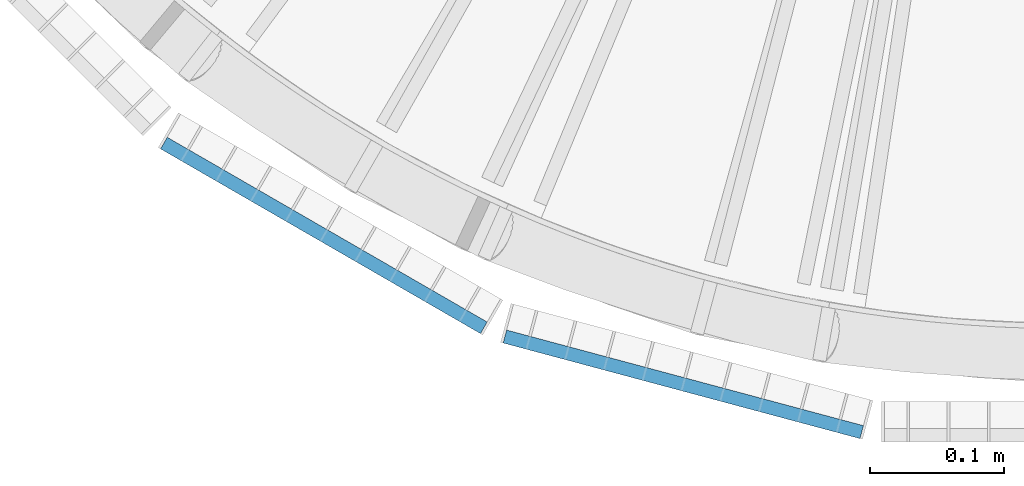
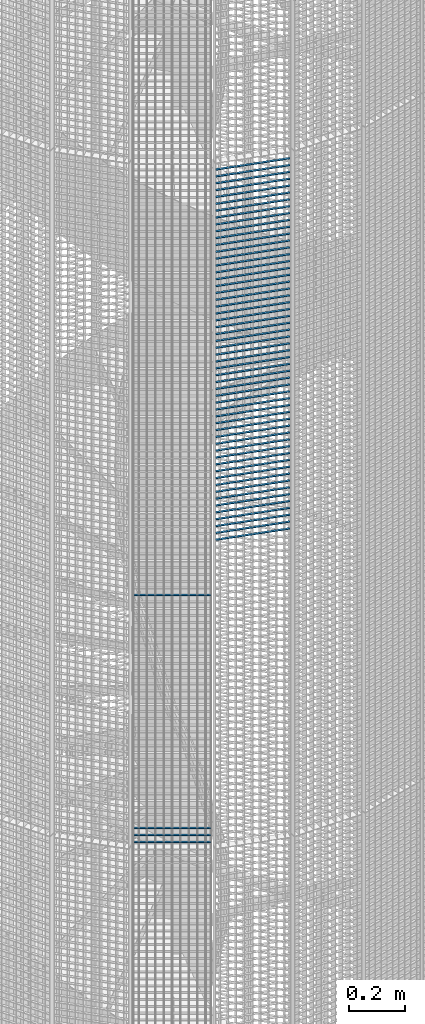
# One storey, part 377 of 1183: 59 beams, 2 elements without a shape of their own.
"""IFC2X3 building model written with IfcOpenShell, lengths in millimetres."""

from ifc_helpers import new_model, si_unit, frame, origin_with_axes, origin_2d_with_axis, place, context, subcontext, project, spatial, rectangle, extrude, material, type_object, element, aggregate, save


model = new_model("IFC2X3")

# Units and contexts
model_context = context("Model", 3, precision=1e-05, world=origin_with_axes())
body_context = subcontext(model_context, "Body", "Model", "MODEL_VIEW")
ifc_project = project(units=[si_unit("LENGTHUNIT", "METRE", prefix="MILLI"), si_unit("AREAUNIT", "SQUARE_METRE"), si_unit("VOLUMEUNIT", "CUBIC_METRE"), si_unit("MASSUNIT", "GRAM", prefix="KILO"), si_unit("TIMEUNIT", "SECOND"), si_unit("PLANEANGLEUNIT", "RADIAN"), si_unit("SOLIDANGLEUNIT", "STERADIAN"), si_unit("THERMODYNAMICTEMPERATUREUNIT", "DEGREE_CELSIUS"), si_unit("LUMINOUSINTENSITYUNIT", "LUMEN")], contexts=[model_context])

# Site, building, storey
site_placement = place(None, origin_with_axes())
site = spatial("IfcSite", under=ifc_project, at=site_placement, Name="Undefined", CompositionType="ELEMENT")
building_placement = place(site_placement, origin_with_axes())
building = spatial("IfcBuilding", under=site, at=building_placement, Name="Undefined", CompositionType="ELEMENT")
storey_placement = place(building_placement, origin_with_axes())
storey = spatial("IfcBuildingStorey", under=building, at=storey_placement, Name="Undefined", CompositionType="ELEMENT", Elevation=0.0)

# Assembly, beams
assembly_1_placement = place(storey_placement, origin_with_axes())
assembly_1 = element("IfcElementAssembly", 1, at=assembly_1_placement, inside=storey, Name="BORDURE", AssemblyPlace="NOTDEFINED", PredefinedType="NOTDEFINED")
ifc_material = material(Name="STEEL/S235JR")
beam_type = type_object("IfcBeamType", Name="PL2*10", PredefinedType="NOTDEFINED")
beam_1_placement = place(assembly_1_placement, frame((21162.7680445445, -1033.29996828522, 3090.0), z_axis=(-0.49999999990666, -0.866025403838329, 0.0), x_axis=(-0.866025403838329, 0.499999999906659, 0.0)))
beam_1 = element("IfcBeam", 2, at=beam_1_placement, type_object=beam_type, material=ifc_material, Name="ENTRETOISE", context=body_context, shape_type="SweptSolid", body=[
    extrude(rectangle(XDim=2.0, YDim=10.0, at=origin_2d_with_axis()), frame((275.999999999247, 9.09494701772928e-13, 1.53210777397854e-14), z_axis=(-1.0, 0.0, 0.0), x_axis=(0.0, -1.0, 0.0)), (0.0, 0.0, 1.0), 276.0),
])
beam_2_placement = place(assembly_1_placement, frame((21162.7680445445, -1033.29996828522, 3060.0), z_axis=(-0.49999999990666, -0.866025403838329, 0.0), x_axis=(-0.866025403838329, 0.499999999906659, 0.0)))
beam_2 = element("IfcBeam", 3, at=beam_2_placement, type_object=beam_type, material=ifc_material, Name="ENTRETOISE", context=body_context, shape_type="SweptSolid", body=[
    extrude(rectangle(XDim=2.0, YDim=10.0, at=origin_2d_with_axis()), frame((275.999999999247, 9.09494701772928e-13, 1.53210777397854e-14), z_axis=(-1.0, 0.0, 0.0), x_axis=(0.0, -1.0, 0.0)), (0.0, 0.0, 1.0), 276.0),
])
beam_3_placement = place(assembly_1_placement, frame((21162.7680445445, -1033.29996828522, 4110.0), z_axis=(-0.49999999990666, -0.866025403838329, 0.0), x_axis=(-0.866025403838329, 0.499999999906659, 0.0)))
beam_3 = element("IfcBeam", 4, at=beam_3_placement, type_object=beam_type, material=ifc_material, Name="ENTRETOISE", context=body_context, shape_type="SweptSolid", body=[
    extrude(rectangle(XDim=2.0, YDim=10.0, at=origin_2d_with_axis()), frame((275.999999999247, 9.09494701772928e-13, 1.53210777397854e-14), z_axis=(-1.0, 0.0, 0.0), x_axis=(0.0, -1.0, 0.0)), (0.0, 0.0, 1.0), 276.0),
])
beam_4_placement = place(assembly_1_placement, frame((21162.7680445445, -1033.29996828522, 3030.0), z_axis=(-0.49999999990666, -0.866025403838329, 0.0), x_axis=(-0.866025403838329, 0.499999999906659, 0.0)))
beam_4 = element("IfcBeam", 5, at=beam_4_placement, type_object=beam_type, material=ifc_material, Name="ENTRETOISE", context=body_context, shape_type="SweptSolid", body=[
    extrude(rectangle(XDim=2.0, YDim=10.0, at=origin_2d_with_axis()), frame((275.999999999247, 9.09494701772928e-13, 1.53210777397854e-14), z_axis=(-1.0, 0.0, 0.0), x_axis=(0.0, -1.0, 0.0)), (0.0, 0.0, 1.0), 276.0),
])
aggregate(assembly_1, [beam_1, beam_2, beam_3, beam_4])

assembly_2_placement = place(storey_placement, origin_with_axes())
assembly_2 = element("IfcElementAssembly", 6, at=assembly_2_placement, inside=storey, Name="BORDURE", AssemblyPlace="NOTDEFINED", PredefinedType="NOTDEFINED")
beam_5_placement = place(assembly_2_placement, frame((21445.1040732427, -1111.25508286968, 5970.0), z_axis=(-0.258819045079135, -0.965925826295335, 0.0), x_axis=(-0.965925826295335, 0.258819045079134, 0.0)))
beam_5 = element("IfcBeam", 7, at=beam_5_placement, type_object=beam_type, material=ifc_material, Name="ENTRETOISE", context=body_context, shape_type="SweptSolid", body=[
    extrude(rectangle(XDim=2.0, YDim=10.0, at=origin_2d_with_axis()), frame((275.999999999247, 9.09494701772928e-13, 1.53210777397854e-14), z_axis=(-1.0, 0.0, 0.0), x_axis=(0.0, -1.0, 0.0)), (0.0, 0.0, 1.0), 276.0),
])
beam_6_placement = place(assembly_2_placement, frame((21445.1040732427, -1111.25508286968, 5940.0), z_axis=(-0.258819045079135, -0.965925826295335, 0.0), x_axis=(-0.965925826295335, 0.258819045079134, 0.0)))
beam_6 = element("IfcBeam", 8, at=beam_6_placement, type_object=beam_type, material=ifc_material, Name="ENTRETOISE", context=body_context, shape_type="SweptSolid", body=[
    extrude(rectangle(XDim=2.0, YDim=10.0, at=origin_2d_with_axis()), frame((275.999999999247, 9.09494701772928e-13, 1.53210777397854e-14), z_axis=(-1.0, 0.0, 0.0), x_axis=(0.0, -1.0, 0.0)), (0.0, 0.0, 1.0), 276.0),
])
beam_7_placement = place(assembly_2_placement, frame((21445.1040732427, -1111.25508286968, 5910.0), z_axis=(-0.258819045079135, -0.965925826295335, 0.0), x_axis=(-0.965925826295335, 0.258819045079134, 0.0)))
beam_7 = element("IfcBeam", 9, at=beam_7_placement, type_object=beam_type, material=ifc_material, Name="ENTRETOISE", context=body_context, shape_type="SweptSolid", body=[
    extrude(rectangle(XDim=2.0, YDim=10.0, at=origin_2d_with_axis()), frame((275.999999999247, 9.09494701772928e-13, 1.53210777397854e-14), z_axis=(-1.0, 0.0, 0.0), x_axis=(0.0, -1.0, 0.0)), (0.0, 0.0, 1.0), 276.0),
])
beam_8_placement = place(assembly_2_placement, frame((21445.1040732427, -1111.25508286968, 5880.0), z_axis=(-0.258819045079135, -0.965925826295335, 0.0), x_axis=(-0.965925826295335, 0.258819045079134, 0.0)))
beam_8 = element("IfcBeam", 10, at=beam_8_placement, type_object=beam_type, material=ifc_material, Name="ENTRETOISE", context=body_context, shape_type="SweptSolid", body=[
    extrude(rectangle(XDim=2.0, YDim=10.0, at=origin_2d_with_axis()), frame((275.999999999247, 9.09494701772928e-13, 1.53210777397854e-14), z_axis=(-1.0, 0.0, 0.0), x_axis=(0.0, -1.0, 0.0)), (0.0, 0.0, 1.0), 276.0),
])
beam_9_placement = place(assembly_2_placement, frame((21445.1040732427, -1111.25508286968, 5850.0), z_axis=(-0.258819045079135, -0.965925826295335, 0.0), x_axis=(-0.965925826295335, 0.258819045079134, 0.0)))
beam_9 = element("IfcBeam", 11, at=beam_9_placement, type_object=beam_type, material=ifc_material, Name="ENTRETOISE", context=body_context, shape_type="SweptSolid", body=[
    extrude(rectangle(XDim=2.0, YDim=10.0, at=origin_2d_with_axis()), frame((275.999999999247, 9.09494701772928e-13, 1.53210777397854e-14), z_axis=(-1.0, 0.0, 0.0), x_axis=(0.0, -1.0, 0.0)), (0.0, 0.0, 1.0), 276.0),
])
beam_10_placement = place(assembly_2_placement, frame((21445.1040732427, -1111.25508286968, 5820.0), z_axis=(-0.258819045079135, -0.965925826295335, 0.0), x_axis=(-0.965925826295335, 0.258819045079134, 0.0)))
beam_10 = element("IfcBeam", 12, at=beam_10_placement, type_object=beam_type, material=ifc_material, Name="ENTRETOISE", context=body_context, shape_type="SweptSolid", body=[
    extrude(rectangle(XDim=2.0, YDim=10.0, at=origin_2d_with_axis()), frame((275.999999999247, 9.09494701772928e-13, 1.53210777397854e-14), z_axis=(-1.0, 0.0, 0.0), x_axis=(0.0, -1.0, 0.0)), (0.0, 0.0, 1.0), 276.0),
])
beam_11_placement = place(assembly_2_placement, frame((21445.1040732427, -1111.25508286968, 5790.0), z_axis=(-0.258819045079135, -0.965925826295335, 0.0), x_axis=(-0.965925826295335, 0.258819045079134, 0.0)))
beam_11 = element("IfcBeam", 13, at=beam_11_placement, type_object=beam_type, material=ifc_material, Name="ENTRETOISE", context=body_context, shape_type="SweptSolid", body=[
    extrude(rectangle(XDim=2.0, YDim=10.0, at=origin_2d_with_axis()), frame((275.999999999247, 9.09494701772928e-13, 1.53210777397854e-14), z_axis=(-1.0, 0.0, 0.0), x_axis=(0.0, -1.0, 0.0)), (0.0, 0.0, 1.0), 276.0),
])
beam_12_placement = place(assembly_2_placement, frame((21445.1040732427, -1111.25508286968, 5760.0), z_axis=(-0.258819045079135, -0.965925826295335, 0.0), x_axis=(-0.965925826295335, 0.258819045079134, 0.0)))
beam_12 = element("IfcBeam", 14, at=beam_12_placement, type_object=beam_type, material=ifc_material, Name="ENTRETOISE", context=body_context, shape_type="SweptSolid", body=[
    extrude(rectangle(XDim=2.0, YDim=10.0, at=origin_2d_with_axis()), frame((275.999999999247, 9.09494701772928e-13, 1.53210777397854e-14), z_axis=(-1.0, 0.0, 0.0), x_axis=(0.0, -1.0, 0.0)), (0.0, 0.0, 1.0), 276.0),
])
beam_13_placement = place(assembly_2_placement, frame((21445.1040732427, -1111.25508286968, 5730.0), z_axis=(-0.258819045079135, -0.965925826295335, 0.0), x_axis=(-0.965925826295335, 0.258819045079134, 0.0)))
beam_13 = element("IfcBeam", 15, at=beam_13_placement, type_object=beam_type, material=ifc_material, Name="ENTRETOISE", context=body_context, shape_type="SweptSolid", body=[
    extrude(rectangle(XDim=2.0, YDim=10.0, at=origin_2d_with_axis()), frame((275.999999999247, 9.09494701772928e-13, 1.53210777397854e-14), z_axis=(-1.0, 0.0, 0.0), x_axis=(0.0, -1.0, 0.0)), (0.0, 0.0, 1.0), 276.0),
])
beam_14_placement = place(assembly_2_placement, frame((21445.1040732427, -1111.25508286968, 5700.0), z_axis=(-0.258819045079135, -0.965925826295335, 0.0), x_axis=(-0.965925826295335, 0.258819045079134, 0.0)))
beam_14 = element("IfcBeam", 16, at=beam_14_placement, type_object=beam_type, material=ifc_material, Name="ENTRETOISE", context=body_context, shape_type="SweptSolid", body=[
    extrude(rectangle(XDim=2.0, YDim=10.0, at=origin_2d_with_axis()), frame((275.999999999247, 9.09494701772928e-13, 1.53210777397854e-14), z_axis=(-1.0, 0.0, 0.0), x_axis=(0.0, -1.0, 0.0)), (0.0, 0.0, 1.0), 276.0),
])
beam_15_placement = place(assembly_2_placement, frame((21445.1040732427, -1111.25508286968, 5670.0), z_axis=(-0.258819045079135, -0.965925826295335, 0.0), x_axis=(-0.965925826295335, 0.258819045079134, 0.0)))
beam_15 = element("IfcBeam", 17, at=beam_15_placement, type_object=beam_type, material=ifc_material, Name="ENTRETOISE", context=body_context, shape_type="SweptSolid", body=[
    extrude(rectangle(XDim=2.0, YDim=10.0, at=origin_2d_with_axis()), frame((275.999999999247, 9.09494701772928e-13, 1.53210777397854e-14), z_axis=(-1.0, 0.0, 0.0), x_axis=(0.0, -1.0, 0.0)), (0.0, 0.0, 1.0), 276.0),
])
beam_16_placement = place(assembly_2_placement, frame((21445.1040732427, -1111.25508286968, 5640.0), z_axis=(-0.258819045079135, -0.965925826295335, 0.0), x_axis=(-0.965925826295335, 0.258819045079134, 0.0)))
beam_16 = element("IfcBeam", 18, at=beam_16_placement, type_object=beam_type, material=ifc_material, Name="ENTRETOISE", context=body_context, shape_type="SweptSolid", body=[
    extrude(rectangle(XDim=2.0, YDim=10.0, at=origin_2d_with_axis()), frame((275.999999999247, 9.09494701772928e-13, 1.53210777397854e-14), z_axis=(-1.0, 0.0, 0.0), x_axis=(0.0, -1.0, 0.0)), (0.0, 0.0, 1.0), 276.0),
])
beam_17_placement = place(assembly_2_placement, frame((21445.1040732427, -1111.25508286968, 5610.0), z_axis=(-0.258819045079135, -0.965925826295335, 0.0), x_axis=(-0.965925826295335, 0.258819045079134, 0.0)))
beam_17 = element("IfcBeam", 19, at=beam_17_placement, type_object=beam_type, material=ifc_material, Name="ENTRETOISE", context=body_context, shape_type="SweptSolid", body=[
    extrude(rectangle(XDim=2.0, YDim=10.0, at=origin_2d_with_axis()), frame((275.999999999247, 9.09494701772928e-13, 1.53210777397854e-14), z_axis=(-1.0, 0.0, 0.0), x_axis=(0.0, -1.0, 0.0)), (0.0, 0.0, 1.0), 276.0),
])
beam_18_placement = place(assembly_2_placement, frame((21445.1040732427, -1111.25508286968, 5580.0), z_axis=(-0.258819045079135, -0.965925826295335, 0.0), x_axis=(-0.965925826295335, 0.258819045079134, 0.0)))
beam_18 = element("IfcBeam", 20, at=beam_18_placement, type_object=beam_type, material=ifc_material, Name="ENTRETOISE", context=body_context, shape_type="SweptSolid", body=[
    extrude(rectangle(XDim=2.0, YDim=10.0, at=origin_2d_with_axis()), frame((275.999999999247, 9.09494701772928e-13, 1.53210777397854e-14), z_axis=(-1.0, 0.0, 0.0), x_axis=(0.0, -1.0, 0.0)), (0.0, 0.0, 1.0), 276.0),
])
beam_19_placement = place(assembly_2_placement, frame((21445.1040732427, -1111.25508286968, 5550.0), z_axis=(-0.258819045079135, -0.965925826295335, 0.0), x_axis=(-0.965925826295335, 0.258819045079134, 0.0)))
beam_19 = element("IfcBeam", 21, at=beam_19_placement, type_object=beam_type, material=ifc_material, Name="ENTRETOISE", context=body_context, shape_type="SweptSolid", body=[
    extrude(rectangle(XDim=2.0, YDim=10.0, at=origin_2d_with_axis()), frame((275.999999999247, 9.09494701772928e-13, 1.53210777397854e-14), z_axis=(-1.0, 0.0, 0.0), x_axis=(0.0, -1.0, 0.0)), (0.0, 0.0, 1.0), 276.0),
])
beam_20_placement = place(assembly_2_placement, frame((21445.1040732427, -1111.25508286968, 5520.0), z_axis=(-0.258819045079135, -0.965925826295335, 0.0), x_axis=(-0.965925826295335, 0.258819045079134, 0.0)))
beam_20 = element("IfcBeam", 22, at=beam_20_placement, type_object=beam_type, material=ifc_material, Name="ENTRETOISE", context=body_context, shape_type="SweptSolid", body=[
    extrude(rectangle(XDim=2.0, YDim=10.0, at=origin_2d_with_axis()), frame((275.999999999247, 9.09494701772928e-13, 1.53210777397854e-14), z_axis=(-1.0, 0.0, 0.0), x_axis=(0.0, -1.0, 0.0)), (0.0, 0.0, 1.0), 276.0),
])
beam_21_placement = place(assembly_2_placement, frame((21445.1040732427, -1111.25508286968, 5490.0), z_axis=(-0.258819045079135, -0.965925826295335, 0.0), x_axis=(-0.965925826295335, 0.258819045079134, 0.0)))
beam_21 = element("IfcBeam", 23, at=beam_21_placement, type_object=beam_type, material=ifc_material, Name="ENTRETOISE", context=body_context, shape_type="SweptSolid", body=[
    extrude(rectangle(XDim=2.0, YDim=10.0, at=origin_2d_with_axis()), frame((275.999999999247, 9.09494701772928e-13, 1.53210777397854e-14), z_axis=(-1.0, 0.0, 0.0), x_axis=(0.0, -1.0, 0.0)), (0.0, 0.0, 1.0), 276.0),
])
beam_22_placement = place(assembly_2_placement, frame((21445.1040732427, -1111.25508286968, 5460.0), z_axis=(-0.258819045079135, -0.965925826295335, 0.0), x_axis=(-0.965925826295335, 0.258819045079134, 0.0)))
beam_22 = element("IfcBeam", 24, at=beam_22_placement, type_object=beam_type, material=ifc_material, Name="ENTRETOISE", context=body_context, shape_type="SweptSolid", body=[
    extrude(rectangle(XDim=2.0, YDim=10.0, at=origin_2d_with_axis()), frame((275.999999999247, 9.09494701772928e-13, 1.53210777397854e-14), z_axis=(-1.0, 0.0, 0.0), x_axis=(0.0, -1.0, 0.0)), (0.0, 0.0, 1.0), 276.0),
])
beam_23_placement = place(assembly_2_placement, frame((21445.1040732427, -1111.25508286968, 5430.0), z_axis=(-0.258819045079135, -0.965925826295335, 0.0), x_axis=(-0.965925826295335, 0.258819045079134, 0.0)))
beam_23 = element("IfcBeam", 25, at=beam_23_placement, type_object=beam_type, material=ifc_material, Name="ENTRETOISE", context=body_context, shape_type="SweptSolid", body=[
    extrude(rectangle(XDim=2.0, YDim=10.0, at=origin_2d_with_axis()), frame((275.999999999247, 9.09494701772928e-13, 1.53210777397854e-14), z_axis=(-1.0, 0.0, 0.0), x_axis=(0.0, -1.0, 0.0)), (0.0, 0.0, 1.0), 276.0),
])
beam_24_placement = place(assembly_2_placement, frame((21445.1040732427, -1111.25508286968, 5400.0), z_axis=(-0.258819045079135, -0.965925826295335, 0.0), x_axis=(-0.965925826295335, 0.258819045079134, 0.0)))
beam_24 = element("IfcBeam", 26, at=beam_24_placement, type_object=beam_type, material=ifc_material, Name="ENTRETOISE", context=body_context, shape_type="SweptSolid", body=[
    extrude(rectangle(XDim=2.0, YDim=10.0, at=origin_2d_with_axis()), frame((275.999999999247, 9.09494701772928e-13, 1.53210777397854e-14), z_axis=(-1.0, 0.0, 0.0), x_axis=(0.0, -1.0, 0.0)), (0.0, 0.0, 1.0), 276.0),
])
beam_25_placement = place(assembly_2_placement, frame((21445.1040732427, -1111.25508286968, 5370.0), z_axis=(-0.258819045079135, -0.965925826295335, 0.0), x_axis=(-0.965925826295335, 0.258819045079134, 0.0)))
beam_25 = element("IfcBeam", 27, at=beam_25_placement, type_object=beam_type, material=ifc_material, Name="ENTRETOISE", context=body_context, shape_type="SweptSolid", body=[
    extrude(rectangle(XDim=2.0, YDim=10.0, at=origin_2d_with_axis()), frame((275.999999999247, 9.09494701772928e-13, 1.53210777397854e-14), z_axis=(-1.0, 0.0, 0.0), x_axis=(0.0, -1.0, 0.0)), (0.0, 0.0, 1.0), 276.0),
])
beam_26_placement = place(assembly_2_placement, frame((21445.1040732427, -1111.25508286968, 5340.0), z_axis=(-0.258819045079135, -0.965925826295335, 0.0), x_axis=(-0.965925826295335, 0.258819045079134, 0.0)))
beam_26 = element("IfcBeam", 28, at=beam_26_placement, type_object=beam_type, material=ifc_material, Name="ENTRETOISE", context=body_context, shape_type="SweptSolid", body=[
    extrude(rectangle(XDim=2.0, YDim=10.0, at=origin_2d_with_axis()), frame((275.999999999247, 9.09494701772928e-13, 1.53210777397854e-14), z_axis=(-1.0, 0.0, 0.0), x_axis=(0.0, -1.0, 0.0)), (0.0, 0.0, 1.0), 276.0),
])
beam_27_placement = place(assembly_2_placement, frame((21445.1040732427, -1111.25508286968, 5310.0), z_axis=(-0.258819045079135, -0.965925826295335, 0.0), x_axis=(-0.965925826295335, 0.258819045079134, 0.0)))
beam_27 = element("IfcBeam", 29, at=beam_27_placement, type_object=beam_type, material=ifc_material, Name="ENTRETOISE", context=body_context, shape_type="SweptSolid", body=[
    extrude(rectangle(XDim=2.0, YDim=10.0, at=origin_2d_with_axis()), frame((275.999999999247, 9.09494701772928e-13, 1.53210777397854e-14), z_axis=(-1.0, 0.0, 0.0), x_axis=(0.0, -1.0, 0.0)), (0.0, 0.0, 1.0), 276.0),
])
beam_28_placement = place(assembly_2_placement, frame((21445.1040732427, -1111.25508286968, 5280.0), z_axis=(-0.258819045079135, -0.965925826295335, 0.0), x_axis=(-0.965925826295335, 0.258819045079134, 0.0)))
beam_28 = element("IfcBeam", 30, at=beam_28_placement, type_object=beam_type, material=ifc_material, Name="ENTRETOISE", context=body_context, shape_type="SweptSolid", body=[
    extrude(rectangle(XDim=2.0, YDim=10.0, at=origin_2d_with_axis()), frame((275.999999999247, 9.09494701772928e-13, 1.53210777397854e-14), z_axis=(-1.0, 0.0, 0.0), x_axis=(0.0, -1.0, 0.0)), (0.0, 0.0, 1.0), 276.0),
])
beam_29_placement = place(assembly_2_placement, frame((21445.1040732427, -1111.25508286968, 5250.0), z_axis=(-0.258819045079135, -0.965925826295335, 0.0), x_axis=(-0.965925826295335, 0.258819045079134, 0.0)))
beam_29 = element("IfcBeam", 31, at=beam_29_placement, type_object=beam_type, material=ifc_material, Name="ENTRETOISE", context=body_context, shape_type="SweptSolid", body=[
    extrude(rectangle(XDim=2.0, YDim=10.0, at=origin_2d_with_axis()), frame((275.999999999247, 9.09494701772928e-13, 1.53210777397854e-14), z_axis=(-1.0, 0.0, 0.0), x_axis=(0.0, -1.0, 0.0)), (0.0, 0.0, 1.0), 276.0),
])
beam_30_placement = place(assembly_2_placement, frame((21445.1040732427, -1111.25508286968, 5220.0), z_axis=(-0.258819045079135, -0.965925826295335, 0.0), x_axis=(-0.965925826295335, 0.258819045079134, 0.0)))
beam_30 = element("IfcBeam", 32, at=beam_30_placement, type_object=beam_type, material=ifc_material, Name="ENTRETOISE", context=body_context, shape_type="SweptSolid", body=[
    extrude(rectangle(XDim=2.0, YDim=10.0, at=origin_2d_with_axis()), frame((275.999999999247, 9.09494701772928e-13, 1.53210777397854e-14), z_axis=(-1.0, 0.0, 0.0), x_axis=(0.0, -1.0, 0.0)), (0.0, 0.0, 1.0), 276.0),
])
beam_31_placement = place(assembly_2_placement, frame((21445.1040732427, -1111.25508286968, 5190.0), z_axis=(-0.258819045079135, -0.965925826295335, 0.0), x_axis=(-0.965925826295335, 0.258819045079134, 0.0)))
beam_31 = element("IfcBeam", 33, at=beam_31_placement, type_object=beam_type, material=ifc_material, Name="ENTRETOISE", context=body_context, shape_type="SweptSolid", body=[
    extrude(rectangle(XDim=2.0, YDim=10.0, at=origin_2d_with_axis()), frame((275.999999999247, 9.09494701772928e-13, 1.53210777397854e-14), z_axis=(-1.0, 0.0, 0.0), x_axis=(0.0, -1.0, 0.0)), (0.0, 0.0, 1.0), 276.0),
])
beam_32_placement = place(assembly_2_placement, frame((21445.1040732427, -1111.25508286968, 5160.0), z_axis=(-0.258819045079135, -0.965925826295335, 0.0), x_axis=(-0.965925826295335, 0.258819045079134, 0.0)))
beam_32 = element("IfcBeam", 34, at=beam_32_placement, type_object=beam_type, material=ifc_material, Name="ENTRETOISE", context=body_context, shape_type="SweptSolid", body=[
    extrude(rectangle(XDim=2.0, YDim=10.0, at=origin_2d_with_axis()), frame((275.999999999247, 9.09494701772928e-13, 1.53210777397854e-14), z_axis=(-1.0, 0.0, 0.0), x_axis=(0.0, -1.0, 0.0)), (0.0, 0.0, 1.0), 276.0),
])
beam_33_placement = place(assembly_2_placement, frame((21445.1040732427, -1111.25508286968, 5130.0), z_axis=(-0.258819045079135, -0.965925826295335, 0.0), x_axis=(-0.965925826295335, 0.258819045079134, 0.0)))
beam_33 = element("IfcBeam", 35, at=beam_33_placement, type_object=beam_type, material=ifc_material, Name="ENTRETOISE", context=body_context, shape_type="SweptSolid", body=[
    extrude(rectangle(XDim=2.0, YDim=10.0, at=origin_2d_with_axis()), frame((275.999999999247, 9.09494701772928e-13, 1.53210777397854e-14), z_axis=(-1.0, 0.0, 0.0), x_axis=(0.0, -1.0, 0.0)), (0.0, 0.0, 1.0), 276.0),
])
beam_34_placement = place(assembly_2_placement, frame((21445.1040732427, -1111.25508286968, 5100.0), z_axis=(-0.258819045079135, -0.965925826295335, 0.0), x_axis=(-0.965925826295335, 0.258819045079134, 0.0)))
beam_34 = element("IfcBeam", 36, at=beam_34_placement, type_object=beam_type, material=ifc_material, Name="ENTRETOISE", context=body_context, shape_type="SweptSolid", body=[
    extrude(rectangle(XDim=2.0, YDim=10.0, at=origin_2d_with_axis()), frame((275.999999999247, 9.09494701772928e-13, 1.53210777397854e-14), z_axis=(-1.0, 0.0, 0.0), x_axis=(0.0, -1.0, 0.0)), (0.0, 0.0, 1.0), 276.0),
])
beam_35_placement = place(assembly_2_placement, frame((21445.1040732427, -1111.25508286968, 5070.0), z_axis=(-0.258819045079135, -0.965925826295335, 0.0), x_axis=(-0.965925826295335, 0.258819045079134, 0.0)))
beam_35 = element("IfcBeam", 37, at=beam_35_placement, type_object=beam_type, material=ifc_material, Name="ENTRETOISE", context=body_context, shape_type="SweptSolid", body=[
    extrude(rectangle(XDim=2.0, YDim=10.0, at=origin_2d_with_axis()), frame((275.999999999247, 9.09494701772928e-13, 1.53210777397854e-14), z_axis=(-1.0, 0.0, 0.0), x_axis=(0.0, -1.0, 0.0)), (0.0, 0.0, 1.0), 276.0),
])
beam_36_placement = place(assembly_2_placement, frame((21445.1040732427, -1111.25508286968, 5040.0), z_axis=(-0.258819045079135, -0.965925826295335, 0.0), x_axis=(-0.965925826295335, 0.258819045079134, 0.0)))
beam_36 = element("IfcBeam", 38, at=beam_36_placement, type_object=beam_type, material=ifc_material, Name="ENTRETOISE", context=body_context, shape_type="SweptSolid", body=[
    extrude(rectangle(XDim=2.0, YDim=10.0, at=origin_2d_with_axis()), frame((275.999999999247, 9.09494701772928e-13, 1.53210777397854e-14), z_axis=(-1.0, 0.0, 0.0), x_axis=(0.0, -1.0, 0.0)), (0.0, 0.0, 1.0), 276.0),
])
beam_37_placement = place(assembly_2_placement, frame((21445.1040732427, -1111.25508286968, 5010.0), z_axis=(-0.258819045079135, -0.965925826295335, 0.0), x_axis=(-0.965925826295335, 0.258819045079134, 0.0)))
beam_37 = element("IfcBeam", 39, at=beam_37_placement, type_object=beam_type, material=ifc_material, Name="ENTRETOISE", context=body_context, shape_type="SweptSolid", body=[
    extrude(rectangle(XDim=2.0, YDim=10.0, at=origin_2d_with_axis()), frame((275.999999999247, 9.09494701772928e-13, 1.53210777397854e-14), z_axis=(-1.0, 0.0, 0.0), x_axis=(0.0, -1.0, 0.0)), (0.0, 0.0, 1.0), 276.0),
])
beam_38_placement = place(assembly_2_placement, frame((21445.1040732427, -1111.25508286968, 4980.0), z_axis=(-0.258819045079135, -0.965925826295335, 0.0), x_axis=(-0.965925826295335, 0.258819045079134, 0.0)))
beam_38 = element("IfcBeam", 40, at=beam_38_placement, type_object=beam_type, material=ifc_material, Name="ENTRETOISE", context=body_context, shape_type="SweptSolid", body=[
    extrude(rectangle(XDim=2.0, YDim=10.0, at=origin_2d_with_axis()), frame((275.999999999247, 9.09494701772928e-13, 1.53210777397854e-14), z_axis=(-1.0, 0.0, 0.0), x_axis=(0.0, -1.0, 0.0)), (0.0, 0.0, 1.0), 276.0),
])
beam_39_placement = place(assembly_2_placement, frame((21445.1040732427, -1111.25508286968, 4950.0), z_axis=(-0.258819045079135, -0.965925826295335, 0.0), x_axis=(-0.965925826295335, 0.258819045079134, 0.0)))
beam_39 = element("IfcBeam", 41, at=beam_39_placement, type_object=beam_type, material=ifc_material, Name="ENTRETOISE", context=body_context, shape_type="SweptSolid", body=[
    extrude(rectangle(XDim=2.0, YDim=10.0, at=origin_2d_with_axis()), frame((275.999999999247, 9.09494701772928e-13, 1.53210777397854e-14), z_axis=(-1.0, 0.0, 0.0), x_axis=(0.0, -1.0, 0.0)), (0.0, 0.0, 1.0), 276.0),
])
beam_40_placement = place(assembly_2_placement, frame((21445.1040732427, -1111.25508286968, 4920.0), z_axis=(-0.258819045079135, -0.965925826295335, 0.0), x_axis=(-0.965925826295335, 0.258819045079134, 0.0)))
beam_40 = element("IfcBeam", 42, at=beam_40_placement, type_object=beam_type, material=ifc_material, Name="ENTRETOISE", context=body_context, shape_type="SweptSolid", body=[
    extrude(rectangle(XDim=2.0, YDim=10.0, at=origin_2d_with_axis()), frame((275.999999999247, 9.09494701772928e-13, 1.53210777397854e-14), z_axis=(-1.0, 0.0, 0.0), x_axis=(0.0, -1.0, 0.0)), (0.0, 0.0, 1.0), 276.0),
])
beam_41_placement = place(assembly_2_placement, frame((21445.1040732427, -1111.25508286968, 4890.0), z_axis=(-0.258819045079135, -0.965925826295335, 0.0), x_axis=(-0.965925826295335, 0.258819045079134, 0.0)))
beam_41 = element("IfcBeam", 43, at=beam_41_placement, type_object=beam_type, material=ifc_material, Name="ENTRETOISE", context=body_context, shape_type="SweptSolid", body=[
    extrude(rectangle(XDim=2.0, YDim=10.0, at=origin_2d_with_axis()), frame((275.999999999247, 9.09494701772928e-13, 1.53210777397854e-14), z_axis=(-1.0, 0.0, 0.0), x_axis=(0.0, -1.0, 0.0)), (0.0, 0.0, 1.0), 276.0),
])
beam_42_placement = place(assembly_2_placement, frame((21445.1040732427, -1111.25508286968, 4860.0), z_axis=(-0.258819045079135, -0.965925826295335, 0.0), x_axis=(-0.965925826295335, 0.258819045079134, 0.0)))
beam_42 = element("IfcBeam", 44, at=beam_42_placement, type_object=beam_type, material=ifc_material, Name="ENTRETOISE", context=body_context, shape_type="SweptSolid", body=[
    extrude(rectangle(XDim=2.0, YDim=10.0, at=origin_2d_with_axis()), frame((275.999999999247, 9.09494701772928e-13, 1.53210777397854e-14), z_axis=(-1.0, 0.0, 0.0), x_axis=(0.0, -1.0, 0.0)), (0.0, 0.0, 1.0), 276.0),
])
beam_43_placement = place(assembly_2_placement, frame((21445.1040732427, -1111.25508286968, 4830.0), z_axis=(-0.258819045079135, -0.965925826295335, 0.0), x_axis=(-0.965925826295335, 0.258819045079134, 0.0)))
beam_43 = element("IfcBeam", 45, at=beam_43_placement, type_object=beam_type, material=ifc_material, Name="ENTRETOISE", context=body_context, shape_type="SweptSolid", body=[
    extrude(rectangle(XDim=2.0, YDim=10.0, at=origin_2d_with_axis()), frame((275.999999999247, 9.09494701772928e-13, 1.53210777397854e-14), z_axis=(-1.0, 0.0, 0.0), x_axis=(0.0, -1.0, 0.0)), (0.0, 0.0, 1.0), 276.0),
])
beam_44_placement = place(assembly_2_placement, frame((21445.1040732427, -1111.25508286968, 4800.0), z_axis=(-0.258819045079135, -0.965925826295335, 0.0), x_axis=(-0.965925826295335, 0.258819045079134, 0.0)))
beam_44 = element("IfcBeam", 46, at=beam_44_placement, type_object=beam_type, material=ifc_material, Name="ENTRETOISE", context=body_context, shape_type="SweptSolid", body=[
    extrude(rectangle(XDim=2.0, YDim=10.0, at=origin_2d_with_axis()), frame((275.999999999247, 9.09494701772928e-13, 1.53210777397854e-14), z_axis=(-1.0, 0.0, 0.0), x_axis=(0.0, -1.0, 0.0)), (0.0, 0.0, 1.0), 276.0),
])
beam_45_placement = place(assembly_2_placement, frame((21445.1040732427, -1111.25508286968, 4770.0), z_axis=(-0.258819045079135, -0.965925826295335, 0.0), x_axis=(-0.965925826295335, 0.258819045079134, 0.0)))
beam_45 = element("IfcBeam", 47, at=beam_45_placement, type_object=beam_type, material=ifc_material, Name="ENTRETOISE", context=body_context, shape_type="SweptSolid", body=[
    extrude(rectangle(XDim=2.0, YDim=10.0, at=origin_2d_with_axis()), frame((275.999999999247, 9.09494701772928e-13, 1.53210777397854e-14), z_axis=(-1.0, 0.0, 0.0), x_axis=(0.0, -1.0, 0.0)), (0.0, 0.0, 1.0), 276.0),
])
beam_46_placement = place(assembly_2_placement, frame((21445.1040732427, -1111.25508286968, 4740.0), z_axis=(-0.258819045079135, -0.965925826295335, 0.0), x_axis=(-0.965925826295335, 0.258819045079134, 0.0)))
beam_46 = element("IfcBeam", 48, at=beam_46_placement, type_object=beam_type, material=ifc_material, Name="ENTRETOISE", context=body_context, shape_type="SweptSolid", body=[
    extrude(rectangle(XDim=2.0, YDim=10.0, at=origin_2d_with_axis()), frame((275.999999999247, 9.09494701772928e-13, 1.53210777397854e-14), z_axis=(-1.0, 0.0, 0.0), x_axis=(0.0, -1.0, 0.0)), (0.0, 0.0, 1.0), 276.0),
])
beam_47_placement = place(assembly_2_placement, frame((21445.1040732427, -1111.25508286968, 4710.0), z_axis=(-0.258819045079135, -0.965925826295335, 0.0), x_axis=(-0.965925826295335, 0.258819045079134, 0.0)))
beam_47 = element("IfcBeam", 49, at=beam_47_placement, type_object=beam_type, material=ifc_material, Name="ENTRETOISE", context=body_context, shape_type="SweptSolid", body=[
    extrude(rectangle(XDim=2.0, YDim=10.0, at=origin_2d_with_axis()), frame((275.999999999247, 9.09494701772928e-13, 1.53210777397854e-14), z_axis=(-1.0, 0.0, 0.0), x_axis=(0.0, -1.0, 0.0)), (0.0, 0.0, 1.0), 276.0),
])
beam_48_placement = place(assembly_2_placement, frame((21445.1040732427, -1111.25508286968, 4680.0), z_axis=(-0.258819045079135, -0.965925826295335, 0.0), x_axis=(-0.965925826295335, 0.258819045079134, 0.0)))
beam_48 = element("IfcBeam", 50, at=beam_48_placement, type_object=beam_type, material=ifc_material, Name="ENTRETOISE", context=body_context, shape_type="SweptSolid", body=[
    extrude(rectangle(XDim=2.0, YDim=10.0, at=origin_2d_with_axis()), frame((275.999999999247, 9.09494701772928e-13, 1.53210777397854e-14), z_axis=(-1.0, 0.0, 0.0), x_axis=(0.0, -1.0, 0.0)), (0.0, 0.0, 1.0), 276.0),
])
beam_49_placement = place(assembly_2_placement, frame((21445.1040732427, -1111.25508286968, 4650.0), z_axis=(-0.258819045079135, -0.965925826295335, 0.0), x_axis=(-0.965925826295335, 0.258819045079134, 0.0)))
beam_49 = element("IfcBeam", 51, at=beam_49_placement, type_object=beam_type, material=ifc_material, Name="ENTRETOISE", context=body_context, shape_type="SweptSolid", body=[
    extrude(rectangle(XDim=2.0, YDim=10.0, at=origin_2d_with_axis()), frame((275.999999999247, 9.09494701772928e-13, 1.53210777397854e-14), z_axis=(-1.0, 0.0, 0.0), x_axis=(0.0, -1.0, 0.0)), (0.0, 0.0, 1.0), 276.0),
])
beam_50_placement = place(assembly_2_placement, frame((21445.1040732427, -1111.25508286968, 4620.0), z_axis=(-0.258819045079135, -0.965925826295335, 0.0), x_axis=(-0.965925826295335, 0.258819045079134, 0.0)))
beam_50 = element("IfcBeam", 52, at=beam_50_placement, type_object=beam_type, material=ifc_material, Name="ENTRETOISE", context=body_context, shape_type="SweptSolid", body=[
    extrude(rectangle(XDim=2.0, YDim=10.0, at=origin_2d_with_axis()), frame((275.999999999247, 9.09494701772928e-13, 1.53210777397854e-14), z_axis=(-1.0, 0.0, 0.0), x_axis=(0.0, -1.0, 0.0)), (0.0, 0.0, 1.0), 276.0),
])
beam_51_placement = place(assembly_2_placement, frame((21445.1040732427, -1111.25508286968, 4590.0), z_axis=(-0.258819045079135, -0.965925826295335, 0.0), x_axis=(-0.965925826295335, 0.258819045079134, 0.0)))
beam_51 = element("IfcBeam", 53, at=beam_51_placement, type_object=beam_type, material=ifc_material, Name="ENTRETOISE", context=body_context, shape_type="SweptSolid", body=[
    extrude(rectangle(XDim=2.0, YDim=10.0, at=origin_2d_with_axis()), frame((275.999999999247, 9.09494701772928e-13, 1.53210777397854e-14), z_axis=(-1.0, 0.0, 0.0), x_axis=(0.0, -1.0, 0.0)), (0.0, 0.0, 1.0), 276.0),
])
beam_52_placement = place(assembly_2_placement, frame((21445.1040732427, -1111.25508286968, 4560.0), z_axis=(-0.258819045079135, -0.965925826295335, 0.0), x_axis=(-0.965925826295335, 0.258819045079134, 0.0)))
beam_52 = element("IfcBeam", 54, at=beam_52_placement, type_object=beam_type, material=ifc_material, Name="ENTRETOISE", context=body_context, shape_type="SweptSolid", body=[
    extrude(rectangle(XDim=2.0, YDim=10.0, at=origin_2d_with_axis()), frame((275.999999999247, 9.09494701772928e-13, 1.53210777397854e-14), z_axis=(-1.0, 0.0, 0.0), x_axis=(0.0, -1.0, 0.0)), (0.0, 0.0, 1.0), 276.0),
])
beam_53_placement = place(assembly_2_placement, frame((21445.1040732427, -1111.25508286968, 4530.0), z_axis=(-0.258819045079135, -0.965925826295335, 0.0), x_axis=(-0.965925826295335, 0.258819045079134, 0.0)))
beam_53 = element("IfcBeam", 55, at=beam_53_placement, type_object=beam_type, material=ifc_material, Name="ENTRETOISE", context=body_context, shape_type="SweptSolid", body=[
    extrude(rectangle(XDim=2.0, YDim=10.0, at=origin_2d_with_axis()), frame((275.999999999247, 9.09494701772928e-13, 1.53210777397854e-14), z_axis=(-1.0, 0.0, 0.0), x_axis=(0.0, -1.0, 0.0)), (0.0, 0.0, 1.0), 276.0),
])
beam_54_placement = place(assembly_2_placement, frame((21445.1040732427, -1111.25508286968, 4500.0), z_axis=(-0.258819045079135, -0.965925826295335, 0.0), x_axis=(-0.965925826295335, 0.258819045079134, 0.0)))
beam_54 = element("IfcBeam", 56, at=beam_54_placement, type_object=beam_type, material=ifc_material, Name="ENTRETOISE", context=body_context, shape_type="SweptSolid", body=[
    extrude(rectangle(XDim=2.0, YDim=10.0, at=origin_2d_with_axis()), frame((275.999999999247, 9.09494701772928e-13, 1.53210777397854e-14), z_axis=(-1.0, 0.0, 0.0), x_axis=(0.0, -1.0, 0.0)), (0.0, 0.0, 1.0), 276.0),
])
beam_55_placement = place(assembly_2_placement, frame((21445.1040732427, -1111.25508286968, 4470.0), z_axis=(-0.258819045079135, -0.965925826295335, 0.0), x_axis=(-0.965925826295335, 0.258819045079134, 0.0)))
beam_55 = element("IfcBeam", 57, at=beam_55_placement, type_object=beam_type, material=ifc_material, Name="ENTRETOISE", context=body_context, shape_type="SweptSolid", body=[
    extrude(rectangle(XDim=2.0, YDim=10.0, at=origin_2d_with_axis()), frame((275.999999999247, 9.09494701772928e-13, 1.53210777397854e-14), z_axis=(-1.0, 0.0, 0.0), x_axis=(0.0, -1.0, 0.0)), (0.0, 0.0, 1.0), 276.0),
])
beam_56_placement = place(assembly_2_placement, frame((21445.1040732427, -1111.25508286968, 4440.0), z_axis=(-0.258819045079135, -0.965925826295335, 0.0), x_axis=(-0.965925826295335, 0.258819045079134, 0.0)))
beam_56 = element("IfcBeam", 58, at=beam_56_placement, type_object=beam_type, material=ifc_material, Name="ENTRETOISE", context=body_context, shape_type="SweptSolid", body=[
    extrude(rectangle(XDim=2.0, YDim=10.0, at=origin_2d_with_axis()), frame((275.999999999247, 9.09494701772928e-13, 1.53210777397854e-14), z_axis=(-1.0, 0.0, 0.0), x_axis=(0.0, -1.0, 0.0)), (0.0, 0.0, 1.0), 276.0),
])
beam_57_placement = place(assembly_2_placement, frame((21445.1040732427, -1111.25508286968, 4410.0), z_axis=(-0.258819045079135, -0.965925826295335, 0.0), x_axis=(-0.965925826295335, 0.258819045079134, 0.0)))
beam_57 = element("IfcBeam", 59, at=beam_57_placement, type_object=beam_type, material=ifc_material, Name="ENTRETOISE", context=body_context, shape_type="SweptSolid", body=[
    extrude(rectangle(XDim=2.0, YDim=10.0, at=origin_2d_with_axis()), frame((275.999999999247, 9.09494701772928e-13, 1.53210777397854e-14), z_axis=(-1.0, 0.0, 0.0), x_axis=(0.0, -1.0, 0.0)), (0.0, 0.0, 1.0), 276.0),
])
beam_58_placement = place(assembly_2_placement, frame((21445.1040732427, -1111.25508286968, 4380.0), z_axis=(-0.258819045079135, -0.965925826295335, 0.0), x_axis=(-0.965925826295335, 0.258819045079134, 0.0)))
beam_58 = element("IfcBeam", 60, at=beam_58_placement, type_object=beam_type, material=ifc_material, Name="ENTRETOISE", context=body_context, shape_type="SweptSolid", body=[
    extrude(rectangle(XDim=2.0, YDim=10.0, at=origin_2d_with_axis()), frame((275.999999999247, 9.09494701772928e-13, 1.53210777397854e-14), z_axis=(-1.0, 0.0, 0.0), x_axis=(0.0, -1.0, 0.0)), (0.0, 0.0, 1.0), 276.0),
])
beam_59_placement = place(assembly_2_placement, frame((21445.1040732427, -1111.25508286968, 4350.0), z_axis=(-0.258819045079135, -0.965925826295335, 0.0), x_axis=(-0.965925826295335, 0.258819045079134, 0.0)))
beam_59 = element("IfcBeam", 61, at=beam_59_placement, type_object=beam_type, material=ifc_material, Name="ENTRETOISE", context=body_context, shape_type="SweptSolid", body=[
    extrude(rectangle(XDim=2.0, YDim=10.0, at=origin_2d_with_axis()), frame((275.999999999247, 9.09494701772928e-13, 1.53210777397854e-14), z_axis=(-1.0, 0.0, 0.0), x_axis=(0.0, -1.0, 0.0)), (0.0, 0.0, 1.0), 276.0),
])
aggregate(assembly_2, [beam_5, beam_6, beam_7, beam_8, beam_9, beam_10, beam_11, beam_12, beam_13, beam_14, beam_15, beam_16, beam_17, beam_18, beam_19, beam_20, beam_21, beam_22, beam_23, beam_24, beam_25, beam_26, beam_27, beam_28, beam_29, beam_30, beam_31, beam_32, beam_33, beam_34, beam_35, beam_36, beam_37, beam_38, beam_39, beam_40, beam_41, beam_42, beam_43, beam_44, beam_45, beam_46, beam_47, beam_48, beam_49, beam_50, beam_51, beam_52, beam_53, beam_54, beam_55, beam_56, beam_57, beam_58, beam_59])

save(model, "model.ifc")
